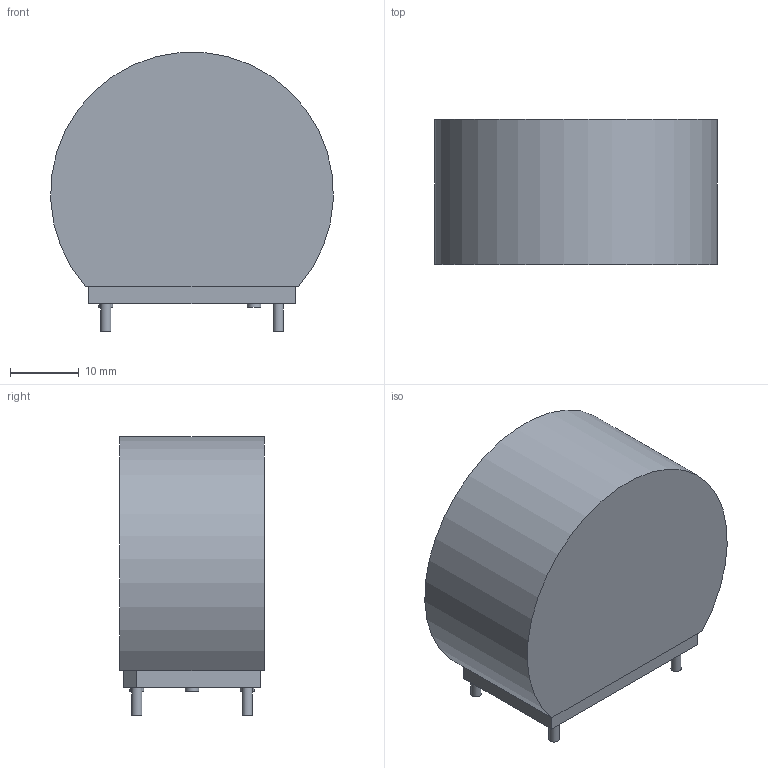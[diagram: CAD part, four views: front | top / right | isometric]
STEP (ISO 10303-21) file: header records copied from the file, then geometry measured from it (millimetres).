
FILE_DESCRIPTION(/* description */ (''),/* implementation_level */ '2;1');
FILE_NAME(/* name */ 'F:\Done\2016\产品3D模拟 新型号\6122-X095\6122-X095 3D Model.stp',/* time_stamp */ '2016-06-17T10:34:04+08:00',/* author */ ('CN000562'),/* organization */ (''),/* preprocessor_version */ 'ST-DEVELOPER v16.1',/* originating_system */ 'Autodesk Inventor 2016',/* authorisation */ '');
FILE_SCHEMA (('AUTOMOTIVE_DESIGN { 1 0 10303 214 3 1 1 }'));
Length unit declared in the file: millimetre
Products named in the file (1): 6122-X095 3D Model
Bounding box: 40.97 x 21 x 40.43 mm (x, y, z)
Volume: 26108.5 mm3; surface area: 5292.2 mm2
Topology: 1 solids, 1 shells, 24 faces, 42 edges, 28 vertices
Faces by surface type: plane 16, cylinder 8
Full cylindrical faces by diameter (mm): 1.5 x4, 2 x3
Entity records: 571 total; most frequent: DIRECTION 101, CARTESIAN_POINT 88, ORIENTED_EDGE 70, AXIS2_PLACEMENT_3D 41, EDGE_LOOP 39, EDGE_CURVE 35, VERTEX_POINT 28, FACE_OUTER_BOUND 24
